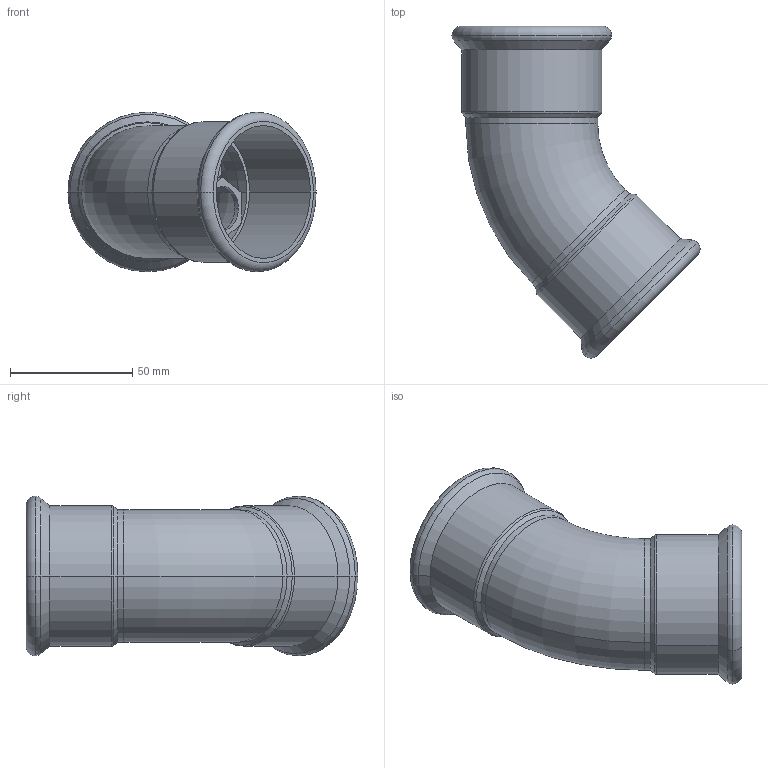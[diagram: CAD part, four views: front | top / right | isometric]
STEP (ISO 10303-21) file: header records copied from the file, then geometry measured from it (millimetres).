
FILE_DESCRIPTION(('OneSpaceDesigner STEP Export'),'2;1');
FILE_NAME('R2713 54x54.stp','2010-06-10T 8:31:48',(''),(''),'OneSpace Designer STEP processor for AP214 (Solid Model)','OneSpace Modeling 15.00A 14-Mar-2007 (C) CoCreate Software GmbH','');
FILE_SCHEMA(('AUTOMOTIVE_DESIGN { 1 0 10303 214 1 1 1 1 }'));
Length unit declared in the file: millimetre
Products named in the file (2): R2713_54x54
Assembly tree (1 placements, depth 2):
  R2713_54x54
    R2713_54x54
Bounding box: 101.5 x 135.75 x 65.3 mm (x, y, z)
Volume: 46268.2 mm3; surface area: 51634.4 mm2
Topology: 1 solids, 1 shells, 122 faces, 303 edges, 193 vertices
Faces by surface type: plane 60, cylinder 38, torus 16, cone 8
Entity records: 3214 total; most frequent: ORIENTED_EDGE 606, CARTESIAN_POINT 521, DIRECTION 478, EDGE_CURVE 303, VERTEX_POINT 193, VECTOR 178, LINE 178, AXIS2_PLACEMENT_3D 150
